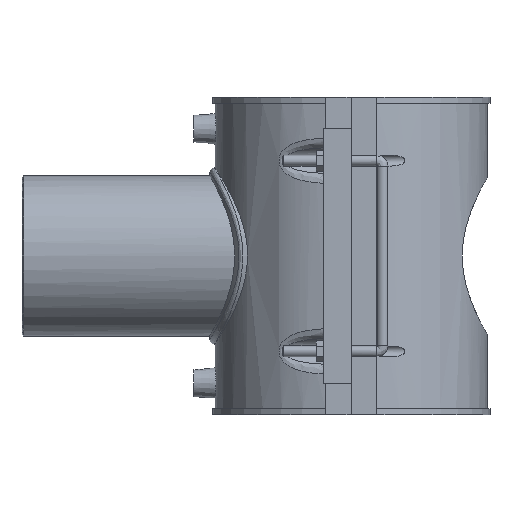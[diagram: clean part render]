
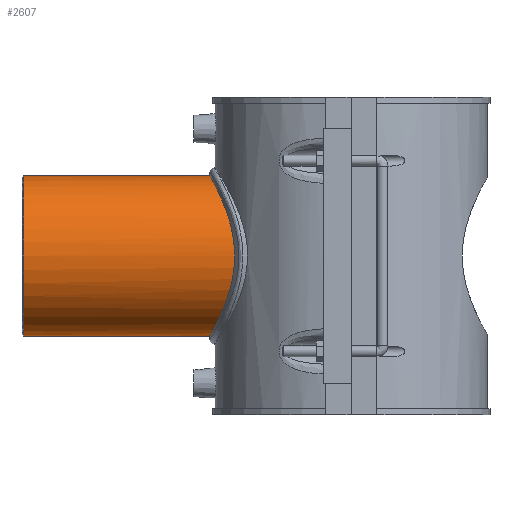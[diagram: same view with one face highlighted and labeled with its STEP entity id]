
A CAD part, left-side view. The second image highlights one B-rep face of the part: STEP entity #2607.
In plain terms, the highlighted cylindrical face has radius 44.35 mm (diameter 88.7 mm), a full revolution.
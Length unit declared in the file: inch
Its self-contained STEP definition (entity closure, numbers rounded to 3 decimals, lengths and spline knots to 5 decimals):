
#143=CIRCLE('',#2776,1.74606);
#245=FACE_OUTER_BOUND('',#394,.T.);
#394=EDGE_LOOP('',(#1785,#1786,#1787,#1788));
#567=LINE('',#3944,#819);
#819=VECTOR('',#3021,1.74606);
#1073=B_SPLINE_CURVE_WITH_KNOTS('',3,(#3878,#3879,#3880,#3881,#3882,#3883,
#3884,#3885,#3886,#3887,#3888,#3889,#3890,#3891,#3892,#3893,#3894,#3895,
#3896,#3897,#3898,#3899,#3900,#3901,#3902,#3903,#3904,#3905,#3906,#3907,
#3908,#3909,#3910,#3911,#3912,#3913,#3914,#3915,#3916,#3917,#3918,#3919,
#3920,#3921,#3922,#3923,#3924,#3925,#3926,#3927,#3928,#3929,#3930,#3931,
#3932,#3933,#3934,#3935,#3936,#3937,#3938,#3939,#3940,#3941,#3942,#3943),
 .UNSPECIFIED.,.T.,.F.,(4,2,2,2,2,2,2,2,2,2,2,2,2,2,2,2,2,2,2,2,2,2,2,2,
2,2,2,2,2,2,2,2,4),(0.,0.8603,1.72059,2.58089,
3.44119,4.2973,5.15341,6.00952,6.86563,
7.72174,8.57785,9.43396,10.29007,11.15037,
12.01067,12.87096,13.73126,14.59156,15.45185,
16.31215,17.17245,18.02856,18.88467,19.74078,
20.59689,21.453,22.30911,23.16522,24.02134,
24.88163,25.74193,26.60222,27.46252),
 .UNSPECIFIED.);
#1124=VERTEX_POINT('',#3871);
#1126=VERTEX_POINT('',#3877);
#1384=EDGE_CURVE('',#1124,#1124,#143,.T.);
#1387=EDGE_CURVE('',#1126,#1126,#1073,.T.);
#1388=EDGE_CURVE('',#1126,#1124,#567,.T.);
#1785=ORIENTED_EDGE('',*,*,#1387,.F.);
#1786=ORIENTED_EDGE('',*,*,#1388,.T.);
#1787=ORIENTED_EDGE('',*,*,#1384,.F.);
#1788=ORIENTED_EDGE('',*,*,#1388,.F.);
#2568=CYLINDRICAL_SURFACE('',#2778,1.74606);
#2607=ADVANCED_FACE('',(#245),#2568,.T.);
#2776=AXIS2_PLACEMENT_3D('',#3872,#3014,#3015);
#2778=AXIS2_PLACEMENT_3D('',#3876,#3019,#3020);
#3014=DIRECTION('center_axis',(0.,1.,0.));
#3015=DIRECTION('ref_axis',(1.,0.,0.));
#3019=DIRECTION('center_axis',(0.,-1.,0.));
#3020=DIRECTION('ref_axis',(1.,0.,0.));
#3021=DIRECTION('',(0.,1.,0.));
#3871=CARTESIAN_POINT('',(-1.74606,7.14114,0.));
#3872=CARTESIAN_POINT('Origin',(0.,7.14114,0.));
#3876=CARTESIAN_POINT('Origin',(0.,7.17606,0.));
#3877=CARTESIAN_POINT('',(-1.74606,2.54297,0.));
#3878=CARTESIAN_POINT('Ctrl Pts',(-1.74606,2.54297,0.));
#3879=CARTESIAN_POINT('Ctrl Pts',(-1.74606,2.54297,-0.1129));
#3880=CARTESIAN_POINT('Ctrl Pts',(-1.73495,2.55071,-0.22845));
#3881=CARTESIAN_POINT('Ctrl Pts',(-1.6894,2.5811,-0.45625));
#3882=CARTESIAN_POINT('Ctrl Pts',(-1.65499,2.60369,-0.56851));
#3883=CARTESIAN_POINT('Ctrl Pts',(-1.56525,2.6586,-0.78242));
#3884=CARTESIAN_POINT('Ctrl Pts',(-1.50985,2.6909,-0.88429));
#3885=CARTESIAN_POINT('Ctrl Pts',(-1.3827,2.75839,-1.07226));
#3886=CARTESIAN_POINT('Ctrl Pts',(-1.31093,2.79353,-1.15838));
#3887=CARTESIAN_POINT('Ctrl Pts',(-1.15875,2.86,-1.31056));
#3888=CARTESIAN_POINT('Ctrl Pts',(-1.07282,2.89384,-1.38227));
#3889=CARTESIAN_POINT('Ctrl Pts',(-0.88479,2.95675,-1.50956));
#3890=CARTESIAN_POINT('Ctrl Pts',(-0.78267,2.98579,-1.56515));
#3891=CARTESIAN_POINT('Ctrl Pts',(-0.56821,3.03391,-1.65511));
#3892=CARTESIAN_POINT('Ctrl Pts',(-0.45566,3.05302,-1.68956));
#3893=CARTESIAN_POINT('Ctrl Pts',(-0.22774,3.07842,-1.73504));
#3894=CARTESIAN_POINT('Ctrl Pts',(-0.11235,3.08471,-1.74606));
#3895=CARTESIAN_POINT('Ctrl Pts',(0.11235,3.08471,-1.74606));
#3896=CARTESIAN_POINT('Ctrl Pts',(0.22774,3.07842,-1.73504));
#3897=CARTESIAN_POINT('Ctrl Pts',(0.45566,3.05302,-1.68956));
#3898=CARTESIAN_POINT('Ctrl Pts',(0.56821,3.03391,-1.65511));
#3899=CARTESIAN_POINT('Ctrl Pts',(0.78267,2.98579,-1.56515));
#3900=CARTESIAN_POINT('Ctrl Pts',(0.88479,2.95675,-1.50956));
#3901=CARTESIAN_POINT('Ctrl Pts',(1.07282,2.89384,-1.38227));
#3902=CARTESIAN_POINT('Ctrl Pts',(1.15875,2.86,-1.31056));
#3903=CARTESIAN_POINT('Ctrl Pts',(1.31093,2.79353,-1.15838));
#3904=CARTESIAN_POINT('Ctrl Pts',(1.3827,2.75839,-1.07226));
#3905=CARTESIAN_POINT('Ctrl Pts',(1.50985,2.6909,-0.88429));
#3906=CARTESIAN_POINT('Ctrl Pts',(1.56525,2.6586,-0.78242));
#3907=CARTESIAN_POINT('Ctrl Pts',(1.65499,2.60369,-0.56851));
#3908=CARTESIAN_POINT('Ctrl Pts',(1.6894,2.5811,-0.45625));
#3909=CARTESIAN_POINT('Ctrl Pts',(1.73495,2.55071,-0.22845));
#3910=CARTESIAN_POINT('Ctrl Pts',(1.74606,2.54297,-0.1129));
#3911=CARTESIAN_POINT('Ctrl Pts',(1.74606,2.54297,0.1129));
#3912=CARTESIAN_POINT('Ctrl Pts',(1.73495,2.55071,0.22845));
#3913=CARTESIAN_POINT('Ctrl Pts',(1.6894,2.5811,0.45625));
#3914=CARTESIAN_POINT('Ctrl Pts',(1.65499,2.60369,0.56851));
#3915=CARTESIAN_POINT('Ctrl Pts',(1.56525,2.6586,0.78242));
#3916=CARTESIAN_POINT('Ctrl Pts',(1.50985,2.6909,0.88429));
#3917=CARTESIAN_POINT('Ctrl Pts',(1.3827,2.75839,1.07226));
#3918=CARTESIAN_POINT('Ctrl Pts',(1.31093,2.79353,1.15838));
#3919=CARTESIAN_POINT('Ctrl Pts',(1.15875,2.86,1.31056));
#3920=CARTESIAN_POINT('Ctrl Pts',(1.07282,2.89384,1.38227));
#3921=CARTESIAN_POINT('Ctrl Pts',(0.88479,2.95675,1.50956));
#3922=CARTESIAN_POINT('Ctrl Pts',(0.78267,2.98579,1.56515));
#3923=CARTESIAN_POINT('Ctrl Pts',(0.56821,3.03391,1.65511));
#3924=CARTESIAN_POINT('Ctrl Pts',(0.45566,3.05302,1.68956));
#3925=CARTESIAN_POINT('Ctrl Pts',(0.22774,3.07842,1.73504));
#3926=CARTESIAN_POINT('Ctrl Pts',(0.11235,3.08471,1.74606));
#3927=CARTESIAN_POINT('Ctrl Pts',(-0.11235,3.08471,1.74606));
#3928=CARTESIAN_POINT('Ctrl Pts',(-0.22774,3.07842,1.73504));
#3929=CARTESIAN_POINT('Ctrl Pts',(-0.45566,3.05302,1.68956));
#3930=CARTESIAN_POINT('Ctrl Pts',(-0.56821,3.03391,1.65511));
#3931=CARTESIAN_POINT('Ctrl Pts',(-0.78267,2.98579,1.56515));
#3932=CARTESIAN_POINT('Ctrl Pts',(-0.88479,2.95675,1.50956));
#3933=CARTESIAN_POINT('Ctrl Pts',(-1.07282,2.89384,1.38227));
#3934=CARTESIAN_POINT('Ctrl Pts',(-1.15875,2.86,1.31056));
#3935=CARTESIAN_POINT('Ctrl Pts',(-1.31093,2.79353,1.15838));
#3936=CARTESIAN_POINT('Ctrl Pts',(-1.3827,2.75839,1.07226));
#3937=CARTESIAN_POINT('Ctrl Pts',(-1.50985,2.6909,0.88429));
#3938=CARTESIAN_POINT('Ctrl Pts',(-1.56525,2.6586,0.78242));
#3939=CARTESIAN_POINT('Ctrl Pts',(-1.65499,2.60369,0.56851));
#3940=CARTESIAN_POINT('Ctrl Pts',(-1.6894,2.5811,0.45625));
#3941=CARTESIAN_POINT('Ctrl Pts',(-1.73495,2.55071,0.22845));
#3942=CARTESIAN_POINT('Ctrl Pts',(-1.74606,2.54297,0.1129));
#3943=CARTESIAN_POINT('Ctrl Pts',(-1.74606,2.54297,0.));
#3944=CARTESIAN_POINT('',(-1.74606,7.17606,0.));
